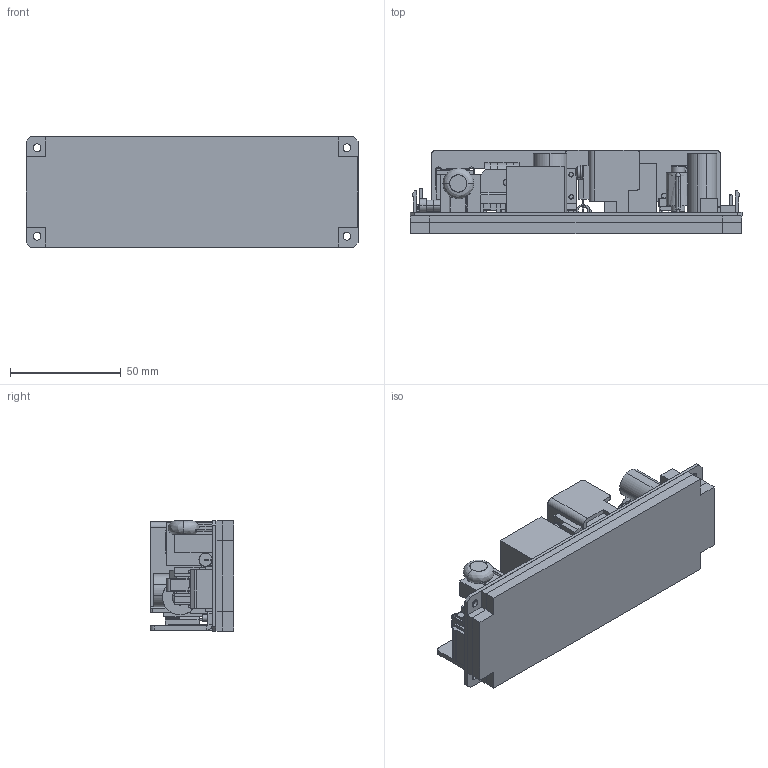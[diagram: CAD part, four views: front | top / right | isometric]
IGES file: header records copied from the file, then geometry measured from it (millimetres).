
Start section: SolidWorks IGES file using analytic representation for surfaces
Global section: file name: C:\zws75baf_outline.IGS; native system: SolidWorks 2010; preprocessor: SolidWorks 2010; author: 46000946; date: 110509.095055; units: millimetre
Bounding box: 150 x 37.6 x 50 mm (x, y, z)
Surface area: 62747.8 mm2 (no closed solid volume)
Topology: 0 solids, 0 shells, 1153 faces, 10981 edges, 10975 vertices
Faces by surface type: bspline 854, revolution 299
